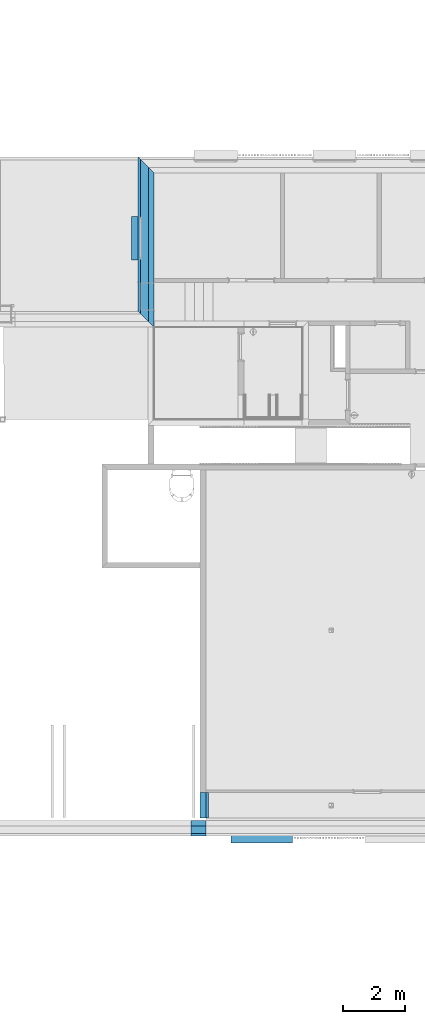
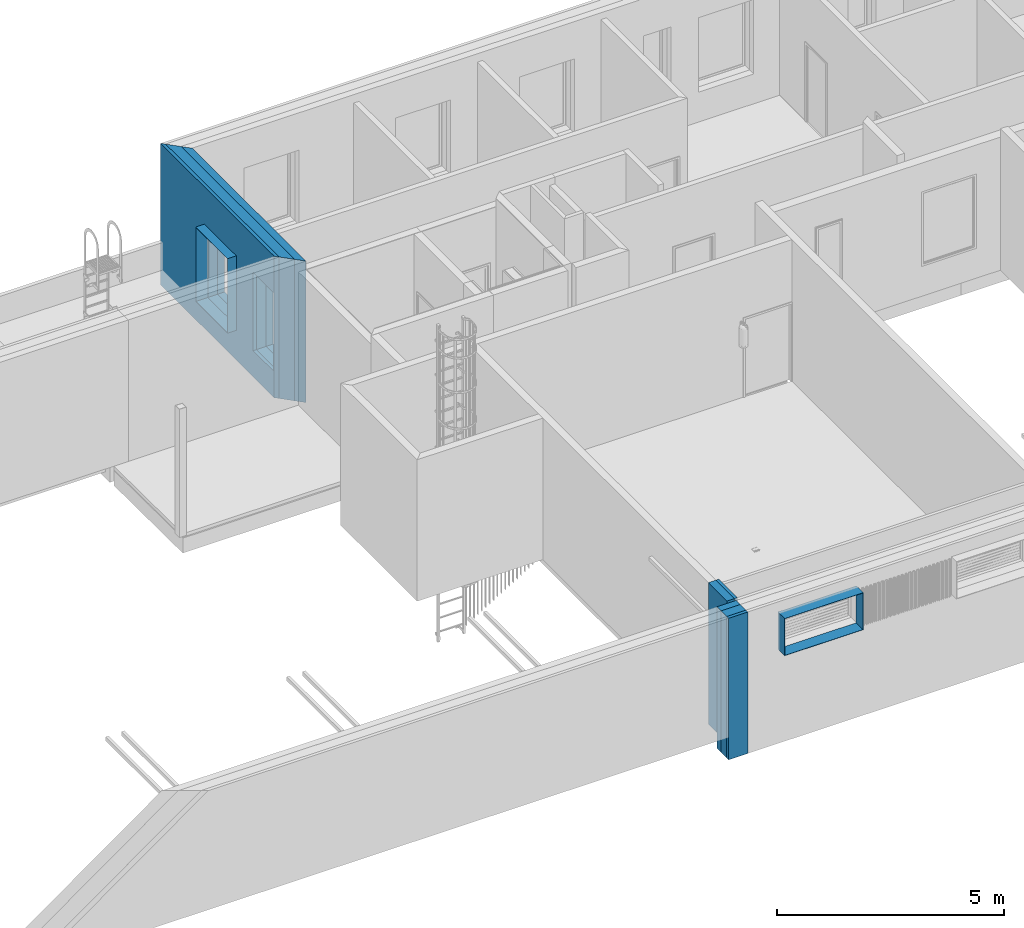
# One storey, part 17 of 100: 8 building element parts, 2 discrete accessories, 2 openings, 3 elements without a shape of their own.
"""IFC2X3 building model written with IfcOpenShell, lengths in millimetres."""

from ifc_helpers import new_model, entity, si_unit, converted_unit, derived_unit, money_unit, direction, frame, origin_with_axes, origin_2d_with_axis, place, context, subcontext, project, spatial, polyline, rectangle, outline, extrude, faceted_brep, source, transform, mapped, material, type_object, element, aggregate, save


model = new_model("IFC2X3")

# Units and contexts
model_context = context("Model", 3, precision=0.01, world=origin_with_axes(), true_north=direction((0.0, 1.0)))
body_context = subcontext(model_context, "Body", "Model", "MODEL_VIEW")
ifc_project = project(units=[si_unit("LENGTHUNIT", "METRE", prefix="MILLI"), si_unit("AREAUNIT", "SQUARE_METRE"), si_unit("VOLUMEUNIT", "CUBIC_METRE"), converted_unit("PLANEANGLEUNIT", "DEGREE", entity("IfcPlaneAngleMeasure", 0.0174532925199), si_unit("PLANEANGLEUNIT", "RADIAN"), dimensions=[0, 0, 0, 0, 0, 0, 0]), si_unit("SOLIDANGLEUNIT", "STERADIAN"), money_unit("EUR"), converted_unit("TIMEUNIT", "Year", entity("IfcTimeMeasure", 31556926.0), si_unit("TIMEUNIT", "SECOND"), dimensions=[0, 0, 1, 0, 0, 0, 0]), si_unit("MASSUNIT", "GRAM", prefix="KILO"), si_unit("THERMODYNAMICTEMPERATUREUNIT", "DEGREE_CELSIUS"), si_unit("LUMINOUSINTENSITYUNIT", "LUMEN"), si_unit("ENERGYUNIT", "JOULE", prefix="MEGA"), derived_unit("THERMALCONDUCTANCEUNIT", [(si_unit("POWERUNIT", "WATT"), 1), (si_unit("LENGTHUNIT", "METRE"), -1), (si_unit("THERMODYNAMICTEMPERATUREUNIT", "KELVIN"), -1)]), derived_unit("SPECIFICHEATCAPACITYUNIT", [(si_unit("ENERGYUNIT", "JOULE"), 1), (si_unit("MASSUNIT", "GRAM", prefix="KILO"), -1), (si_unit("THERMODYNAMICTEMPERATUREUNIT", "KELVIN"), -1)]), derived_unit("MASSDENSITYUNIT", [(si_unit("MASSUNIT", "GRAM", prefix="KILO"), 1), (si_unit("VOLUMEUNIT", "CUBIC_METRE"), -1)])], contexts=[model_context])

# Site, building, storey
site_placement = place(None, origin_with_axes())
site = spatial("IfcSite", under=ifc_project, at=site_placement, Name="Politse- ja Piirivalveameti ning Päästeameti ühishoone", CompositionType="ELEMENT")
building_placement = place(site_placement, origin_with_axes())
building = spatial("IfcBuilding", under=site, at=building_placement, Name="Politse- ja Piirivalveameti ning Päästeameti ühishoone", CompositionType="ELEMENT")
storey_placement = place(building_placement, frame((0.0, 0.0, 3800.0), z_axis=(0.0, 0.0, 1.0), x_axis=(1.0, 0.0, 0.0)))
storey = spatial("IfcBuildingStorey", under=building, at=storey_placement, Name="Teine korrus", CompositionType="ELEMENT", Elevation=3800.0)

# Discrete accessories
ifc_material_1 = material(Name="SV-01_Krohv - Kips")
discrete_accessory_type = type_object("IfcDiscreteAccessoryType", Name="Architrave 01 23")
shared_shape_1 = source(origin_with_axes(), body_context, "Body", "Brep", [
    faceted_brep([(700.0, 0.0, -10.0), (700.0, -300.182356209, -10.0), (-700.0, -300.182356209, -10.0), (-700.0, 0.0, -10.0), (690.0, 0.0, 0.0), (690.0, -300.182356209, 0.0), (-690.0, -300.182356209, 0.0), (-690.0, 0.0, 0.0)], [[[0, 1, 2, 3]], [[4, 5, 1, 0]], [[1, 5, 6, 2]], [[3, 2, 6, 7]], [[0, 3, 7, 4]], [[7, 6, 5, 4]]]),
    faceted_brep([(-700.0, 0.0, -10.0), (-700.0, -300.182356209, -10.0), (-700.0, -300.182356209, 1990.0), (-700.0, 0.0, 1990.0), (-690.0, 0.0, 0.0), (-690.0, -300.182356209, 0.0), (-690.0, -300.182356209, 1980.0), (-690.0, 0.0, 1980.0)], [[[0, 1, 2, 3]], [[4, 5, 1, 0]], [[1, 5, 6, 2]], [[3, 2, 6, 7]], [[0, 3, 7, 4]], [[7, 6, 5, 4]]]),
    faceted_brep([(-700.0, 0.0, 1990.0), (-700.0, -300.182356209, 1990.0), (700.0, -300.182356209, 1990.0), (700.0, 0.0, 1990.0), (-690.0, 0.0, 1980.0), (-690.0, -300.182356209, 1980.0), (690.0, -300.182356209, 1980.0), (690.0, 0.0, 1980.0)], [[[0, 1, 2, 3]], [[4, 5, 1, 0]], [[1, 5, 6, 2]], [[3, 2, 6, 7]], [[0, 3, 7, 4]], [[7, 6, 5, 4]]]),
    faceted_brep([(700.0, 0.0, 1990.0), (700.0, -300.182356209, 1990.0), (700.0, -300.182356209, -10.0), (700.0, 0.0, -10.0), (690.0, 0.0, 1980.0), (690.0, -300.182356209, 1980.0), (690.0, -300.182356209, 0.0), (690.0, 0.0, 0.0)], [[[0, 1, 2, 3]], [[4, 5, 1, 0]], [[1, 5, 6, 2]], [[3, 2, 6, 7]], [[0, 3, 7, 4]], [[7, 6, 5, 4]]]),
])
discrete_accessory_1_placement = place(storey_placement, frame((16470.1722137, 18879.7844389, 810.0), z_axis=(0.0, 0.0, 1.0), x_axis=(0.0, -1.0, 0.0)))
element("IfcDiscreteAccessory", 1, at=discrete_accessory_1_placement, inside=storey, type_object=discrete_accessory_type, material=ifc_material_1, Name="AKNARAAM 01", context=body_context, shape_type="MappedRepresentation", body=[
    mapped(shared_shape_1, transform((0.0, 0.0, 0.0))),
])
shared_shape_2 = source(origin_with_axes(), body_context, "Body", "Brep", [
    faceted_brep([(-1000.0, 0.0, -10.0), (1000.0, 0.0, -10.0), (1000.0, -300.182356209, -10.0), (-1000.0, -300.182356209, -10.0), (-990.0, 0.0, 0.0), (990.0, 0.0, 0.0), (990.0, -300.182356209, 0.0), (-990.0, -300.182356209, 0.0)], [[[0, 1, 2, 3]], [[0, 4, 5, 1]], [[1, 5, 6, 2]], [[3, 2, 6, 7]], [[4, 0, 3, 7]], [[5, 4, 7, 6]]]),
    faceted_brep([(1000.0, 0.0, -10.0), (1000.0, 0.0, 990.0), (1000.0, -300.182356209, 990.0), (1000.0, -300.182356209, -10.0), (990.0, 0.0, 0.0), (990.0, 0.0, 980.0), (990.0, -300.182356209, 980.0), (990.0, -300.182356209, 0.0)], [[[0, 1, 2, 3]], [[0, 4, 5, 1]], [[1, 5, 6, 2]], [[3, 2, 6, 7]], [[4, 0, 3, 7]], [[5, 4, 7, 6]]]),
    faceted_brep([(1000.0, 0.0, 990.0), (-1000.0, 0.0, 990.0), (-1000.0, -300.182356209, 990.0), (1000.0, -300.182356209, 990.0), (990.0, 0.0, 980.0), (-990.0, 0.0, 980.0), (-990.0, -300.182356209, 980.0), (990.0, -300.182356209, 980.0)], [[[0, 1, 2, 3]], [[0, 4, 5, 1]], [[1, 5, 6, 2]], [[3, 2, 6, 7]], [[4, 0, 3, 7]], [[5, 4, 7, 6]]]),
    faceted_brep([(-1000.0, 0.0, 990.0), (-1000.0, 0.0, -10.0), (-1000.0, -300.182356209, -10.0), (-1000.0, -300.182356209, 990.0), (-990.0, 0.0, 980.0), (-990.0, 0.0, 0.0), (-990.0, -300.182356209, 0.0), (-990.0, -300.182356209, 980.0)], [[[0, 1, 2, 3]], [[0, 4, 5, 1]], [[1, 5, 6, 2]], [[3, 2, 6, 7]], [[4, 0, 3, 7]], [[5, 4, 7, 6]]]),
])
discrete_accessory_2_placement = place(storey_placement, frame((20399.6782336, -430.000022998, 2480.0), z_axis=(0.0, 0.0, 1.0), x_axis=(1.0, 0.0, 0.0)))
element("IfcDiscreteAccessory", 2, at=discrete_accessory_2_placement, inside=storey, type_object=discrete_accessory_type, material=ifc_material_1, Name="AKNARAAM 01", context=body_context, shape_type="MappedRepresentation", body=[
    mapped(shared_shape_2, transform((0.0, 0.0, 0.0))),
])

# Wall, openings, building element parts
wall_type_1 = type_object("IfcWallType", Name="VS-01_välissein 510", PredefinedType="NOTDEFINED")
wall_1_placement = place(storey_placement, frame((16900.2594074, 16000.0244444, 0.0), z_axis=(0.0, 0.0, 1.0), x_axis=(-4.00006399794e-05, 0.9999999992, 0.0)))
wall_1 = element("IfcWall", 3, at=wall_1_placement, inside=storey, type_object=wall_type_1, Name="VS-01")
opening_1_placement = place(wall_1_placement, frame((2879.78039651, 0.0, 800.0), z_axis=(0.0, 0.0, 1.0), x_axis=(1.0, 0.0, 0.0)))
element("IfcOpeningElement", 4, at=opening_1_placement, cuts=wall_1, Name="A-02", context=body_context, shape_type="SweptSolid", body=[
    extrude(rectangle(XDim=1400.0, YDim=2000.0, at=origin_2d_with_axis()), frame((0.0, 430.0, 1000.0), z_axis=(0.0, 1.0, 0.0), x_axis=(1.0, 0.0, 0.0)), (0.0, 0.0, -1.0), 940.0),
    extrude(rectangle(XDim=1400.0, YDim=2000.0, at=origin_2d_with_axis()), frame((0.0, 430.0, 1000.0), z_axis=(0.0, -1.0, 0.0), x_axis=(1.0, 0.0, 0.0)), (0.0, 0.0, -1.0), 590.0),
])
opening_2_placement = place(wall_1_placement, frame((990.000000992, 0.0, 700.0), z_axis=(0.0, 0.0, 1.0), x_axis=(1.0, 0.0, 0.0)))
element("IfcOpeningElement", 5, at=opening_2_placement, cuts=wall_1, Name="VU-10", context=body_context, shape_type="SweptSolid", body=[
    extrude(rectangle(XDim=900.0, YDim=2100.0, at=origin_2d_with_axis()), frame((0.0, -510.0, 1050.0), z_axis=(0.0, -1.0, 0.0), x_axis=(-1.0, 0.0, 0.0)), (0.0, 0.0, -1.0), 1530.0),
    extrude(rectangle(XDim=974.0, YDim=2137.0, at=origin_2d_with_axis()), frame((0.0, 0.0, 1068.5), z_axis=(0.0, -1.0, 0.0), x_axis=(-1.0, 0.0, 0.0)), (0.0, 0.0, 1.0), 510.0),
    extrude(rectangle(XDim=974.0, YDim=2137.0, at=origin_2d_with_axis()), frame((0.0, 510.0, 1068.5), z_axis=(0.0, 1.0, 0.0), x_axis=(-1.0, 0.0, 0.0)), (0.0, 0.0, 1.0), 510.0),
])
ifc_material_2 = material(Name="KON-04_Betoon - Konstuktsioon")
building_element_part_1_placement = place(wall_1_placement, origin_with_axes())
building_element_part_1 = element("IfcBuildingElementPart", 6, at=building_element_part_1_placement, material=ifc_material_2, Name="KON-04_Betoon - Konstuktsioon", context=body_context, shape_type="SweptSolid", body=[
    extrude(outline(polyline([(0.0, 0.0), (4999.92764277, 0.0), (5179.93483612, 180.0), (180.007200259, 180.0), (0.0, 0.0)])), origin_with_axes(), (0.0, 0.0, 1.0), 3800.0),
])
ifc_material_3 = material(Name="SOJ-06_Soojustus - Plastik Kõva")
building_element_part_2_placement = place(wall_1_placement, origin_with_axes())
building_element_part_2 = element("IfcBuildingElementPart", 7, at=building_element_part_2_placement, material=ifc_material_3, Name="SOJ-06_Soojustus - Plastik Kõva", context=body_context, shape_type="SweptSolid", body=[
    extrude(outline(polyline([(180.007200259, 180.0), (5179.93483612, 180.0), (5429.94482688, 430.0), (430.017200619, 430.0), (180.007200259, 180.0)])), origin_with_axes(), (0.0, 0.0, 1.0), 3800.0),
])
building_element_part_3_placement = place(wall_1_placement, origin_with_axes())
building_element_part_3 = element("IfcBuildingElementPart", 8, at=building_element_part_3_placement, material=ifc_material_2, Name="KON-04_Betoon - Konstuktsioon", context=body_context, shape_type="SweptSolid", body=[
    extrude(outline(polyline([(430.017200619, 430.0), (5429.94482688, 430.0), (5509.94802392, 510.0), (510.020400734, 510.0), (430.017200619, 430.0)])), origin_with_axes(), (0.0, 0.0, 1.0), 3800.0),
])
aggregate(wall_1, [building_element_part_1, building_element_part_2, building_element_part_3])

# Wall, building element parts
wall_2_placement = place(storey_placement, frame((18099.6782559, 0.0, 0.0), z_axis=(0.0, 0.0, 1.0), x_axis=(1.0, 0.0, 0.0)))
wall_2 = element("IfcWall", 9, at=wall_2_placement, inside=storey, type_object=wall_type_1, Name="VS-01")
building_element_part_4_placement = place(wall_2_placement, origin_with_axes())
building_element_part_4 = element("IfcBuildingElementPart", 10, at=building_element_part_4_placement, material=ifc_material_2, Name="KON-04_Betoon - Konstuktsioon", context=body_context, shape_type="SweptSolid", body=[
    extrude(outline(polyline([(0.0, -180.0), (490.409855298, -180.0), (490.409855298, 0.0), (0.0, 0.0), (0.0, -180.0)])), origin_with_axes(), (0.0, 0.0, 1.0), 3800.0),
])
building_element_part_5_placement = place(wall_2_placement, origin_with_axes())
building_element_part_5 = element("IfcBuildingElementPart", 11, at=building_element_part_5_placement, material=ifc_material_3, Name="SOJ-06_Soojustus - Plastik Kõva", context=body_context, shape_type="SweptSolid", body=[
    extrude(outline(polyline([(0.0, -430.0), (490.409855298, -430.0), (490.409855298, -180.0), (0.0, -180.0), (0.0, -430.0)])), origin_with_axes(), (0.0, 0.0, 1.0), 3800.0),
])
building_element_part_6_placement = place(wall_2_placement, origin_with_axes())
building_element_part_6 = element("IfcBuildingElementPart", 12, at=building_element_part_6_placement, material=ifc_material_2, Name="KON-04_Betoon - Konstuktsioon", context=body_context, shape_type="SweptSolid", body=[
    extrude(outline(polyline([(0.0, -510.0), (490.409855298, -510.0), (490.409855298, -430.0), (0.0, -430.0), (0.0, -510.0)])), origin_with_axes(), (0.0, 0.0, 1.0), 3800.0),
])
aggregate(wall_2, [building_element_part_4, building_element_part_5, building_element_part_6])

wall_type_2 = type_object("IfcWallType", Name="SS-12 vent õhuvõtt garaaz 270", PredefinedType="NOTDEFINED")
wall_3_placement = place(storey_placement, frame((18670.0881112, 899.772752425, 0.0), z_axis=(0.0, 0.0, 1.0), x_axis=(0.0, -1.0, 0.0)))
wall_3 = element("IfcWall", 13, at=wall_3_placement, inside=storey, type_object=wall_type_2, Name="SS-12")
ifc_material_4 = material(Name="SOJ-02_Soojustus - Fiiber Kõva")
building_element_part_7_placement = place(wall_3_placement, origin_with_axes())
building_element_part_7 = element("IfcBuildingElementPart", 14, at=building_element_part_7_placement, material=ifc_material_4, Name="SOJ-02_Soojustus - Fiiber Kõva", context=body_context, shape_type="SweptSolid", body=[
    extrude(outline(polyline([(0.0, -80.0), (819.772752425, -80.0), (819.772752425, 0.0), (0.0, 0.0), (0.0, -80.0)])), origin_with_axes(), (0.0, 0.0, 1.0), 3800.0),
])
ifc_material_5 = material(Name="KON-05_Betoon Plokk - Konstuktsioon")
building_element_part_8_placement = place(wall_3_placement, origin_with_axes())
building_element_part_8 = element("IfcBuildingElementPart", 15, at=building_element_part_8_placement, material=ifc_material_5, Name="KON-05_Betoon Plokk - Konstuktsioon", context=body_context, shape_type="SweptSolid", body=[
    extrude(outline(polyline([(0.0, -270.0), (819.772752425, -270.0), (819.772752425, -80.0), (0.0, -80.0), (0.0, -270.0)])), origin_with_axes(), (0.0, 0.0, 1.0), 3800.0),
])
aggregate(wall_3, [building_element_part_7, building_element_part_8])

save(model, "model.ifc")
